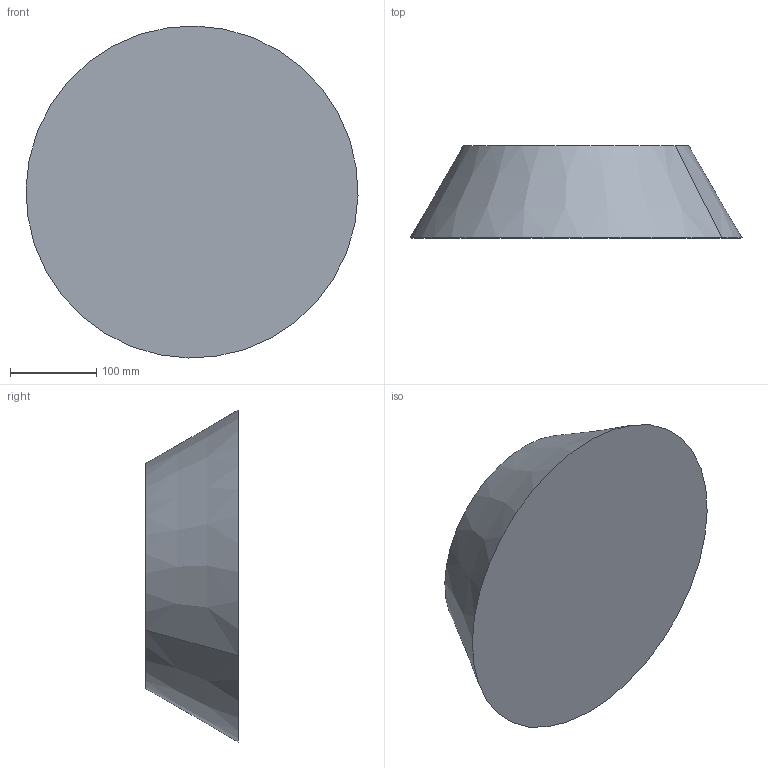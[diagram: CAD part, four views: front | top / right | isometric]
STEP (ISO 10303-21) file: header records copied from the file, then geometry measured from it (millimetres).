
FILE_DESCRIPTION(('CATIA V5 STEP Exchange'),'2;1');
FILE_NAME('C:\_Andres\UNIVERSIDAD\IQS\ASIGNATURAS\DAO\EXF\EXF-16172c\2inicio\Carreras_Buscato_Ej09_v7.stp','2017-03-05T22:13:10+00:00',('none'),('none'),'CATIA Version 5-6 Release 2014 SP1 HF18','CATIA V5 STEP AP203','none');
FILE_SCHEMA(('CONFIG_CONTROL_DESIGN'));
Length unit declared in the file: millimetre
Products named in the file (1): Carreras_Buscato_Ej09_v7
Bounding box: 385.89 x 107 x 385.89 mm (x, y, z)
Volume: 8933159 mm3; surface area: 299165.7 mm2
Topology: 1 solids, 2 shells, 8 faces, 12 edges, 8 vertices
Faces by surface type: plane 4, cone 2, cylinder 2
Entity records: 205 total; most frequent: CARTESIAN_POINT 27, DIRECTION 24, ORIENTED_EDGE 24, AXIS2_PLACEMENT_3D 15, EDGE_CURVE 12, ADVANCED_FACE 8, CIRCLE 8, EDGE_LOOP 8
